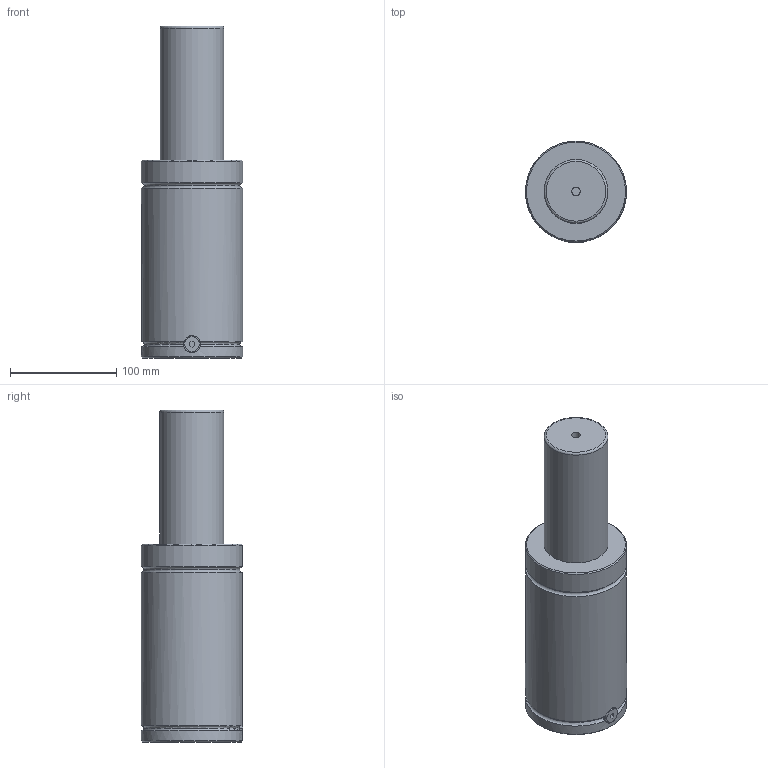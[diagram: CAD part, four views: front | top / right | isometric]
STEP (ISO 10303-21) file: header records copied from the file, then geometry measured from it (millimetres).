
FILE_DESCRIPTION(('FreeCAD Model'),'2;1');
FILE_NAME('Open CASCADE Shape Model','2024-11-13T17:19:13',('Author'),( ''),'Open CASCADE STEP processor 7.6','FreeCAD','Unknown');
FILE_SCHEMA(('AUTOMOTIVE_DESIGN { 1 0 10303 214 1 1 1 1 }'));
Length unit declared in the file: millimetre
Products named in the file (7): Unnamed1; Part005; Cut001; Part009; 3; Part014; Cut
Assembly tree (6 placements, depth 3):
  Unnamed1
    Part005
      Cut001
    Part009
      3
    Part014
      Cut
Bounding box: 95 x 95.5 x 312 mm (x, y, z)
Volume: 1662967.7 mm3; surface area: 103053.1 mm2
Topology: 3 solids, 3 shells, 45 faces, 84 edges, 52 vertices
Faces by surface type: plane 20, cylinder 14, torus 7, cone 4
Full cylindrical faces by diameter (mm): 8 x1, 12 x4, 16 x1, 60 x1, 95 x3
Entity records: 1485 total; most frequent: CARTESIAN_POINT 414, DIRECTION 224, ORIENTED_EDGE 168, AXIS2_PLACEMENT_3D 94, EDGE_CURVE 84, FACE_BOUND 52, EDGE_LOOP 52, VERTEX_POINT 52
